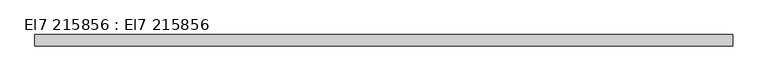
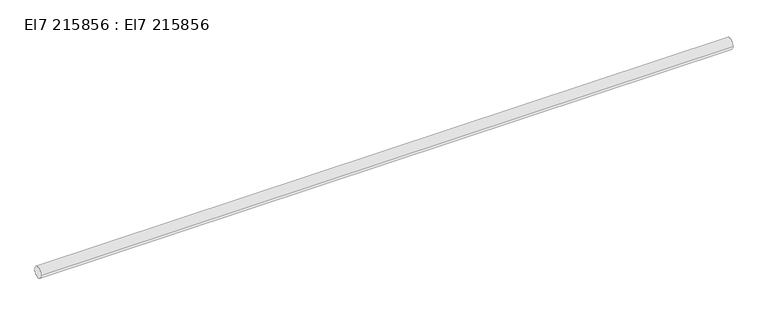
"""IFC4 building model written with IfcOpenShell, lengths in millimetres: cable carrier segment geometry, El7 215856 : El7 215856."""

from ifc_helpers import new_model, si_unit, point, frame, frame_2d, origin, place, context, project, spatial, circle_curve, trimmed, segment, composite_curve, outline, extrude, source, transform, mapped, element, save


def el7_215856_el7_215856_ec621197(model_context):
    return source(origin(), model_context, "Body", "SweptSolid", [
        extrude(outline(composite_curve([segment(trimmed(circle_curve(frame_2d((17022.1, 4200.0)), 9.5), [point((17012.6, 4200.0))], [point((17031.6, 4200.0))], False, "CARTESIAN"), True, "CONTINUOUS"), segment(trimmed(circle_curve(frame_2d((17022.1, 4200.0)), 9.5), [point((17031.6, 4200.0))], [point((17012.6, 4200.0))], False, "CARTESIAN"), True, "CONTINUOUS")], self_intersect=False)), frame((14905.0, 0.0, 0.0), z_axis=(1.0, 0.0, 0.0), x_axis=(0.0, 1.0, 0.0)), (0.0, 0.0, 1.0), 1180.0),
    ])


if __name__ == "__main__":
    model = new_model("IFC4")
    model_context = context("Model", 3, world=origin())
    ifc_project = project(units=[si_unit("LENGTHUNIT", "METRE", prefix="MILLI")], contexts=[model_context])
    site = spatial("IfcSite", under=ifc_project)
    building = spatial("IfcBuilding", under=site)
    placement = place(None, origin())
    el7_215856_el7_215856_shape = el7_215856_el7_215856_ec621197(model_context)
    element("IfcCableCarrierSegment", 1, ObjectType="El7 215856 : El7 215856", at=placement, inside=building, context=model_context, shape_type="MappedRepresentation", body=[
        mapped(el7_215856_el7_215856_shape, transform((0.0, 0.0, 0.0), x_axis=(1.0, 0.0, 0.0), y_axis=(0.0, 1.0, 0.0), z_axis=(0.0, 0.0, 1.0))),
    ])
    save(model, "model.ifc")
